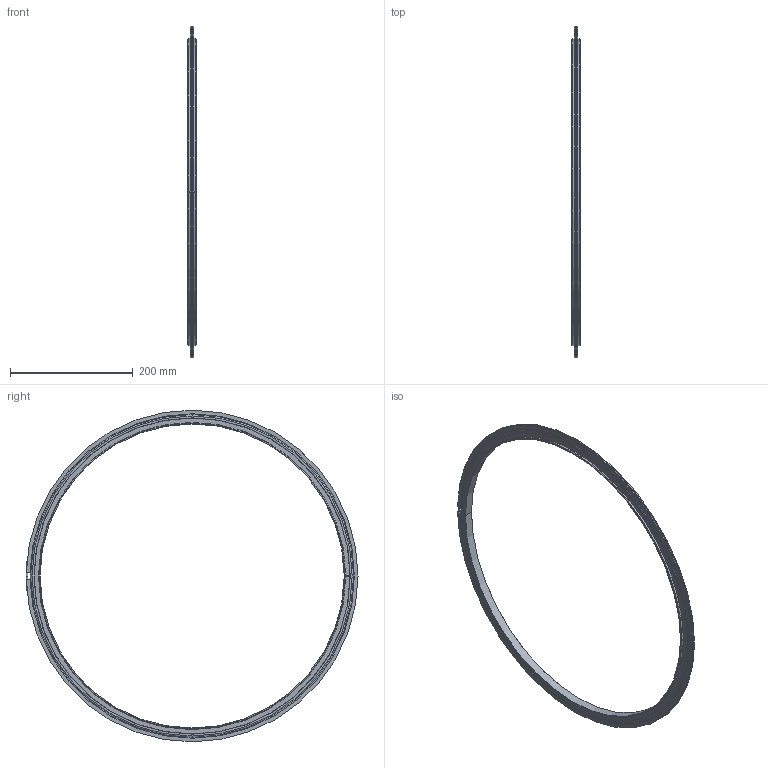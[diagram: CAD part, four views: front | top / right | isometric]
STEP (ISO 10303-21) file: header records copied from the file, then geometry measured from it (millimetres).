
FILE_DESCRIPTION((''),'2;1');
FILE_NAME('N:\Transfer\Berger Martin\Leybold\C13\26815.stp','2005-02-08T10:21:05',('PESO'),(''),'Autodesk Inventor 9','Autodesk Inventor 9','');
FILE_SCHEMA(('AUTOMOTIVE_DESIGN { 1 0 10303 214 1 1 1 1 }'));
Length unit declared in the file: millimetre
Products named in the file (1): 26815
Bounding box: 14 x 541.4 x 541 mm (x, y, z)
Volume: 221845.6 mm3; surface area: 126082.5 mm2
Topology: 2 solids, 2 shells, 66 faces, 189 edges, 127 vertices
Faces by surface type: cylinder 28, plane 18, torus 12, bspline 4, cone 4
Entity records: 2612 total; most frequent: CARTESIAN_POINT 731, DIRECTION 427, ORIENTED_EDGE 394, EDGE_CURVE 197, AXIS2_PLACEMENT_3D 179, VERTEX_POINT 127, CIRCLE 116, VECTOR 69
